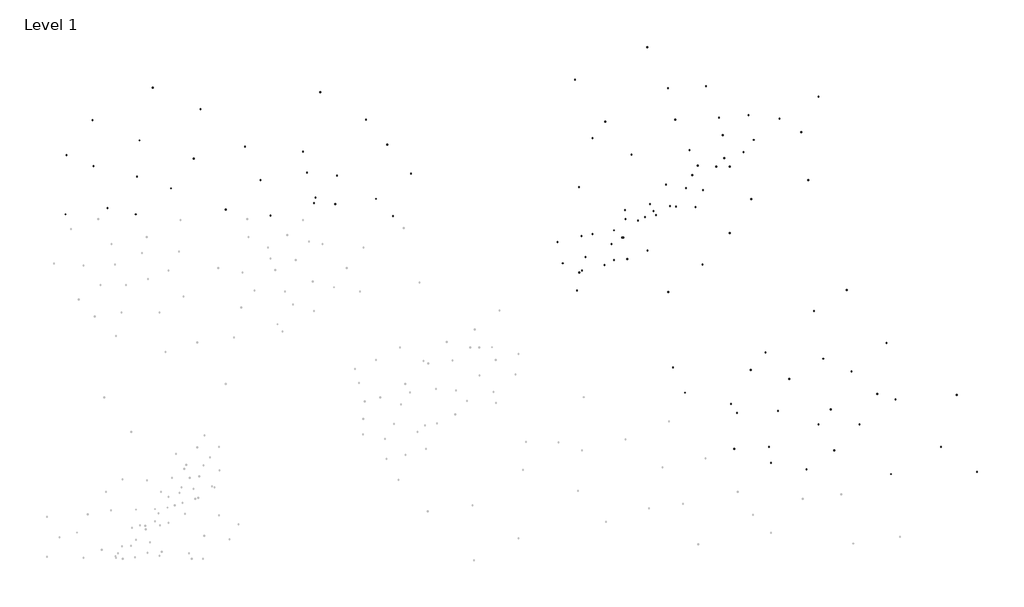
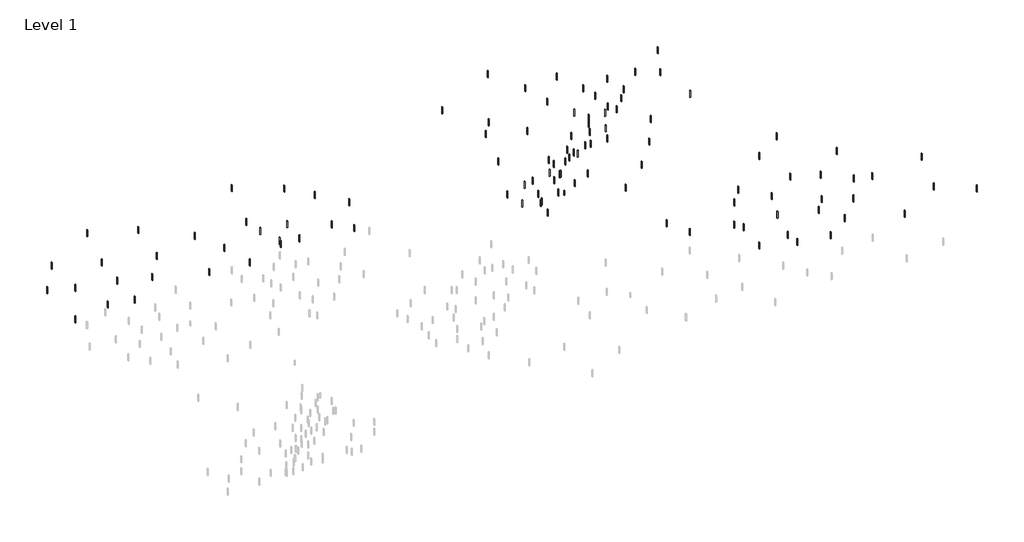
# One storey, part 3 of 3: 112 columns.
"""IFC4 building model written with IfcOpenShell, lengths in millimetres."""

from ifc_helpers import new_model, si_unit, origin, place, context, project, spatial, transform, mapped, element, save
from components import concrete_rectangular_column_12_x_18_4e544043, concrete_rectangular_column_12_x_18_d53c0298

model = new_model("IFC4")

# Units and contexts
model_context = context("Model", 3, world=origin())
ifc_project = project(units=[si_unit("LENGTHUNIT", "METRE", prefix="MILLI")], contexts=[model_context])

# Site, building, storey
site = spatial("IfcSite", under=ifc_project)
building = spatial("IfcBuilding", under=site)
storey = spatial("IfcBuildingStorey", under=building, Name="Level 1", Elevation=0.0)

# Columns
placement = place(None, origin())
concrete_rectangular_column_12_x_18_shape = concrete_rectangular_column_12_x_18_4e544043(model_context)
element("IfcColumn", 1, ObjectType="Concrete-Rectangular-Column : 12 x 18", at=placement, inside=storey, context=model_context, shape_type="MappedRepresentation", body=[
    mapped(concrete_rectangular_column_12_x_18_shape, transform((331236.2656156, 171995.4418633, 0.0), x_axis=(1.0, 0.0, 0.0), y_axis=(0.0, 1.0, 0.0), z_axis=(0.0, 0.0, 1.0))),
])
element("IfcColumn", 2, ObjectType="Concrete-Rectangular-Column : 12 x 18", at=placement, inside=storey, context=model_context, shape_type="MappedRepresentation", body=[
    mapped(concrete_rectangular_column_12_x_18_shape, transform((381102.6694144, 178499.7554022, 0.0), x_axis=(1.0, 0.0, 0.0), y_axis=(0.0, 1.0, 0.0), z_axis=(0.0, 0.0, 1.0))),
])
element("IfcColumn", 3, ObjectType="Concrete-Rectangular-Column : 12 x 18", at=placement, inside=storey, context=model_context, shape_type="MappedRepresentation", body=[
    mapped(concrete_rectangular_column_12_x_18_shape, transform((393027.2442358, 211021.3230971, 0.0), x_axis=(1.0, 0.0, 0.0), y_axis=(0.0, 1.0, 0.0), z_axis=(0.0, 0.0, 1.0))),
])
element("IfcColumn", 4, ObjectType="Concrete-Rectangular-Column : 12 x 18", at=placement, inside=storey, context=model_context, shape_type="MappedRepresentation", body=[
    mapped(concrete_rectangular_column_12_x_18_shape, transform((461322.5363951, 170911.3896068, 0.0), x_axis=(1.0, 0.0, 0.0), y_axis=(0.0, 1.0, 0.0), z_axis=(0.0, 0.0, 1.0))),
])
element("IfcColumn", 5, ObjectType="Concrete-Rectangular-Column : 12 x 18", at=placement, inside=storey, context=model_context, shape_type="MappedRepresentation", body=[
    mapped(concrete_rectangular_column_12_x_18_shape, transform((453734.1705996, 145978.1877074, 0.0), x_axis=(1.0, 0.0, 0.0), y_axis=(0.0, 1.0, 0.0), z_axis=(0.0, 0.0, 1.0))),
])
element("IfcColumn", 6, ObjectType="Concrete-Rectangular-Column : 12 x 18", at=placement, inside=storey, context=model_context, shape_type="MappedRepresentation", body=[
    mapped(concrete_rectangular_column_12_x_18_shape, transform((429885.0209567, 132969.5606294, 0.0), x_axis=(1.0, 0.0, 0.0), y_axis=(0.0, 1.0, 0.0), z_axis=(0.0, 0.0, 1.0))),
])
element("IfcColumn", 7, ObjectType="Concrete-Rectangular-Column : 12 x 18", at=placement, inside=storey, context=model_context, shape_type="MappedRepresentation", body=[
    mapped(concrete_rectangular_column_12_x_18_shape, transform((414708.2893657, 156818.7102723, 0.0), x_axis=(1.0, 0.0, 0.0), y_axis=(0.0, 1.0, 0.0), z_axis=(0.0, 0.0, 1.0))),
])
element("IfcColumn", 8, ObjectType="Concrete-Rectangular-Column : 12 x 18", at=placement, inside=storey, context=model_context, shape_type="MappedRepresentation", body=[
    mapped(concrete_rectangular_column_12_x_18_shape, transform((432053.1254697, 168743.2850938, 0.0), x_axis=(1.0, 0.0, 0.0), y_axis=(0.0, 1.0, 0.0), z_axis=(0.0, 0.0, 1.0))),
])
element("IfcColumn", 9, ObjectType="Concrete-Rectangular-Column : 12 x 18", at=placement, inside=storey, context=model_context, shape_type="MappedRepresentation", body=[
    mapped(concrete_rectangular_column_12_x_18_shape, transform((397363.4532618, 188256.2257107, 0.0), x_axis=(1.0, 0.0, 0.0), y_axis=(0.0, 1.0, 0.0), z_axis=(0.0, 0.0, 1.0))),
])
element("IfcColumn", 10, ObjectType="Concrete-Rectangular-Column : 12 x 18", at=placement, inside=storey, context=model_context, shape_type="MappedRepresentation", body=[
    mapped(concrete_rectangular_column_12_x_18_shape, transform((375682.4081319, 163323.0238113, 0.0), x_axis=(1.0, 0.0, 0.0), y_axis=(0.0, 1.0, 0.0), z_axis=(0.0, 0.0, 1.0))),
])
element("IfcColumn", 11, ObjectType="Concrete-Rectangular-Column : 12 x 18", at=placement, inside=storey, context=model_context, shape_type="MappedRepresentation", body=[
    mapped(concrete_rectangular_column_12_x_18_shape, transform((371346.1991059, 145978.1877074, 0.0), x_axis=(1.0, 0.0, 0.0), y_axis=(0.0, 1.0, 0.0), z_axis=(0.0, 0.0, 1.0))),
])
element("IfcColumn", 12, ObjectType="Concrete-Rectangular-Column : 12 x 18", at=placement, inside=storey, context=model_context, shape_type="MappedRepresentation", body=[
    mapped(concrete_rectangular_column_12_x_18_shape, transform((356169.467515, 162238.9715548, 0.0), x_axis=(1.0, 0.0, 0.0), y_axis=(0.0, 1.0, 0.0), z_axis=(0.0, 0.0, 1.0))),
])
element("IfcColumn", 13, ObjectType="Concrete-Rectangular-Column : 12 x 18", at=placement, inside=storey, context=model_context, shape_type="MappedRepresentation", body=[
    mapped(concrete_rectangular_column_12_x_18_shape, transform((471079.0067035, 134053.6128859, 0.0), x_axis=(1.0, 0.0, 0.0), y_axis=(0.0, 1.0, 0.0), z_axis=(0.0, 0.0, 1.0))),
])
element("IfcColumn", 14, ObjectType="Concrete-Rectangular-Column : 12 x 18", at=placement, inside=storey, context=model_context, shape_type="MappedRepresentation", body=[
    mapped(concrete_rectangular_column_12_x_18_shape, transform((427716.9164437, 195844.5915062, 0.0), x_axis=(1.0, 0.0, 0.0), y_axis=(0.0, 1.0, 0.0), z_axis=(0.0, 0.0, 1.0))),
])
element("IfcColumn", 15, ObjectType="Concrete-Rectangular-Column : 12 x 18", at=placement, inside=storey, context=model_context, shape_type="MappedRepresentation", body=[
    mapped(concrete_rectangular_column_12_x_18_shape, transform((362673.781054, 182835.9644282, 0.0), x_axis=(1.0, 0.0, 0.0), y_axis=(0.0, 1.0, 0.0), z_axis=(0.0, 0.0, 1.0))),
])
element("IfcColumn", 16, ObjectType="Concrete-Rectangular-Column : 12 x 18", at=placement, inside=storey, context=model_context, shape_type="MappedRepresentation", body=[
    mapped(concrete_rectangular_column_12_x_18_shape, transform((372430.2513624, 138389.8219119, 0.0), x_axis=(1.0, 0.0, 0.0), y_axis=(0.0, 1.0, 0.0), z_axis=(0.0, 0.0, 1.0))),
])
element("IfcColumn", 17, ObjectType="Concrete-Rectangular-Column : 12 x 18", at=placement, inside=storey, context=model_context, shape_type="MappedRepresentation", body=[
    mapped(concrete_rectangular_column_12_x_18_shape, transform((395195.3487488, 156818.7102723, 0.0), x_axis=(1.0, 0.0, 0.0), y_axis=(0.0, 1.0, 0.0), z_axis=(0.0, 0.0, 1.0))),
])
element("IfcColumn", 18, ObjectType="Concrete-Rectangular-Column : 12 x 18", at=placement, inside=storey, context=model_context, shape_type="MappedRepresentation", body=[
    mapped(concrete_rectangular_column_12_x_18_shape, transform((325400.2702927, 184052.0542495, 0.0), x_axis=(1.0, 0.0, 0.0), y_axis=(0.0, 1.0, 0.0), z_axis=(0.0, 0.0, 1.0))),
])
element("IfcColumn", 19, ObjectType="Concrete-Rectangular-Column : 12 x 18", at=placement, inside=storey, context=model_context, shape_type="MappedRepresentation", body=[
    mapped(concrete_rectangular_column_12_x_18_shape, transform((35133.3520887, 285803.9430025, 0.0), x_axis=(1.0, 0.0, 0.0), y_axis=(0.0, 1.0, 0.0), z_axis=(0.0, 0.0, 1.0))),
])
element("IfcColumn", 20, ObjectType="Concrete-Rectangular-Column : 12 x 18", at=placement, inside=storey, context=model_context, shape_type="MappedRepresentation", body=[
    mapped(concrete_rectangular_column_12_x_18_shape, transform((68220.2581855, 257443.7161566, 0.0), x_axis=(1.0, 0.0, 0.0), y_axis=(0.0, 1.0, 0.0), z_axis=(0.0, 0.0, 1.0))),
])
element("IfcColumn", 21, ObjectType="Concrete-Rectangular-Column : 12 x 18", at=placement, inside=storey, context=model_context, shape_type="MappedRepresentation", body=[
    mapped(concrete_rectangular_column_12_x_18_shape, transform((69961.6742959, 292893.999714, 0.0), x_axis=(1.0, 0.0, 0.0), y_axis=(0.0, 1.0, 0.0), z_axis=(0.0, 0.0, 1.0))),
])
element("IfcColumn", 22, ObjectType="Concrete-Rectangular-Column : 12 x 18", at=placement, inside=storey, context=model_context, shape_type="MappedRepresentation", body=[
    mapped(concrete_rectangular_column_12_x_18_shape, transform((34552.8800519, 257443.7161566, 0.0), x_axis=(1.0, 0.0, 0.0), y_axis=(0.0, 1.0, 0.0), z_axis=(0.0, 0.0, 1.0))),
])
element("IfcColumn", 23, ObjectType="Concrete-Rectangular-Column : 12 x 18", at=placement, inside=storey, context=model_context, shape_type="MappedRepresentation", body=[
    mapped(concrete_rectangular_column_12_x_18_shape, transform((132652.6542689, 256898.3271788, 0.0), x_axis=(1.0, 0.0, 0.0), y_axis=(0.0, 1.0, 0.0), z_axis=(0.0, 0.0, 1.0))),
])
element("IfcColumn", 24, ObjectType="Concrete-Rectangular-Column : 12 x 18", at=placement, inside=storey, context=model_context, shape_type="MappedRepresentation", body=[
    mapped(concrete_rectangular_column_12_x_18_shape, transform((164578.6162922, 275986.941402, 0.0), x_axis=(1.0, 0.0, 0.0), y_axis=(0.0, 1.0, 0.0), z_axis=(0.0, 0.0, 1.0))),
])
element("IfcColumn", 25, ObjectType="Concrete-Rectangular-Column : 12 x 18", at=placement, inside=storey, context=model_context, shape_type="MappedRepresentation", body=[
    mapped(concrete_rectangular_column_12_x_18_shape, transform((128008.8779746, 273805.3854908, 0.0), x_axis=(1.0, 0.0, 0.0), y_axis=(0.0, 1.0, 0.0), z_axis=(0.0, 0.0, 1.0))),
])
element("IfcColumn", 26, ObjectType="Concrete-Rectangular-Column : 12 x 18", at=placement, inside=storey, context=model_context, shape_type="MappedRepresentation", body=[
    mapped(concrete_rectangular_column_12_x_18_shape, transform((148325.3992622, 287440.1099359, 0.0), x_axis=(1.0, 0.0, 0.0), y_axis=(0.0, 1.0, 0.0), z_axis=(0.0, 0.0, 1.0))),
])
element("IfcColumn", 27, ObjectType="Concrete-Rectangular-Column : 12 x 18", at=placement, inside=storey, context=model_context, shape_type="MappedRepresentation", body=[
    mapped(concrete_rectangular_column_12_x_18_shape, transform((153549.6475933, 262897.6059346, 0.0), x_axis=(1.0, 0.0, 0.0), y_axis=(0.0, 1.0, 0.0), z_axis=(0.0, 0.0, 1.0))),
])
element("IfcColumn", 28, ObjectType="Concrete-Rectangular-Column : 12 x 18", at=placement, inside=storey, context=model_context, shape_type="MappedRepresentation", body=[
    mapped(concrete_rectangular_column_12_x_18_shape, transform((163726.0692405, 262351.3973544, 0.0), x_axis=(1.0, 0.0, 0.0), y_axis=(0.0, 1.0, 0.0), z_axis=(0.0, 0.0, 1.0))),
])
element("IfcColumn", 29, ObjectType="Concrete-Rectangular-Column : 12 x 18", at=placement, inside=storey, context=model_context, shape_type="MappedRepresentation", body=[
    mapped(concrete_rectangular_column_12_x_18_shape, transform((154300.0967984, 265514.3536267, 0.0), x_axis=(1.0, 0.0, 0.0), y_axis=(0.0, 1.0, 0.0), z_axis=(0.0, 0.0, 1.0))),
])
element("IfcColumn", 30, ObjectType="Concrete-Rectangular-Column : 12 x 18", at=placement, inside=storey, context=model_context, shape_type="MappedRepresentation", body=[
    mapped(concrete_rectangular_column_12_x_18_shape, transform((150260.3943232, 277533.5874615, 0.0), x_axis=(1.0, 0.0, 0.0), y_axis=(0.0, 1.0, 0.0), z_axis=(0.0, 0.0, 1.0))),
])
element("IfcColumn", 31, ObjectType="Concrete-Rectangular-Column : 12 x 18", at=placement, inside=storey, context=model_context, shape_type="MappedRepresentation", body=[
    mapped(concrete_rectangular_column_12_x_18_shape, transform((178538.3116495, 302837.23764, 0.0), x_axis=(1.0, 0.0, 0.0), y_axis=(0.0, 1.0, 0.0), z_axis=(0.0, 0.0, 1.0))),
])
element("IfcColumn", 32, ObjectType="Concrete-Rectangular-Column : 12 x 18", at=placement, inside=storey, context=model_context, shape_type="MappedRepresentation", body=[
    mapped(concrete_rectangular_column_12_x_18_shape, transform((323088.3128112, 318012.5616179, 0.0), x_axis=(1.0, 0.0, 0.0), y_axis=(0.0, 1.0, 0.0), z_axis=(0.0, 0.0, 1.0))),
])
element("IfcColumn", 33, ObjectType="Concrete-Rectangular-Column : 12 x 18", at=placement, inside=storey, context=model_context, shape_type="MappedRepresentation", body=[
    mapped(concrete_rectangular_column_12_x_18_shape, transform((200083.3915172, 276900.996207, 0.0), x_axis=(1.0, 0.0, 0.0), y_axis=(0.0, 1.0, 0.0), z_axis=(0.0, 0.0, 1.0))),
])
element("IfcColumn", 34, ObjectType="Concrete-Rectangular-Column : 12 x 18", at=placement, inside=storey, context=model_context, shape_type="MappedRepresentation", body=[
    mapped(concrete_rectangular_column_12_x_18_shape, transform((191330.702821, 256658.0760642, 0.0), x_axis=(1.0, 0.0, 0.0), y_axis=(0.0, 1.0, 0.0), z_axis=(0.0, 0.0, 1.0))),
])
element("IfcColumn", 35, ObjectType="Concrete-Rectangular-Column : 12 x 18", at=placement, inside=storey, context=model_context, shape_type="MappedRepresentation", body=[
    mapped(concrete_rectangular_column_12_x_18_shape, transform((183251.2978706, 264881.7623722, 0.0), x_axis=(1.0, 0.0, 0.0), y_axis=(0.0, 1.0, 0.0), z_axis=(0.0, 0.0, 1.0))),
])
element("IfcColumn", 36, ObjectType="Concrete-Rectangular-Column : 12 x 18", at=placement, inside=storey, context=model_context, shape_type="MappedRepresentation", body=[
    mapped(concrete_rectangular_column_12_x_18_shape, transform((188637.5678375, 290818.0038052, 0.0), x_axis=(1.0, 0.0, 0.0), y_axis=(0.0, 1.0, 0.0), z_axis=(0.0, 0.0, 1.0))),
])
element("IfcColumn", 37, ObjectType="Concrete-Rectangular-Column : 12 x 18", at=placement, inside=storey, context=model_context, shape_type="MappedRepresentation", body=[
    mapped(concrete_rectangular_column_12_x_18_shape, transform((293022.5069207, 301897.699731, 0.0), x_axis=(1.0, 0.0, 0.0), y_axis=(0.0, 1.0, 0.0), z_axis=(0.0, 0.0, 1.0))),
])
element("IfcColumn", 38, ObjectType="Concrete-Rectangular-Column : 12 x 18", at=placement, inside=storey, context=model_context, shape_type="MappedRepresentation", body=[
    mapped(concrete_rectangular_column_12_x_18_shape, transform((68793.0610734, 275635.8136981, 0.0), x_axis=(1.0, 0.0, 0.0), y_axis=(0.0, 1.0, 0.0), z_axis=(0.0, 0.0, 1.0))),
])
element("IfcColumn", 39, ObjectType="Concrete-Rectangular-Column : 12 x 18", at=placement, inside=storey, context=model_context, shape_type="MappedRepresentation", body=[
    mapped(concrete_rectangular_column_12_x_18_shape, transform((54654.1024102, 260453.623591, 0.0), x_axis=(1.0, 0.0, 0.0), y_axis=(0.0, 1.0, 0.0), z_axis=(0.0, 0.0, 1.0))),
])
element("IfcColumn", 40, ObjectType="Concrete-Rectangular-Column : 12 x 18", at=placement, inside=storey, context=model_context, shape_type="MappedRepresentation", body=[
    mapped(concrete_rectangular_column_12_x_18_shape, transform((316094.4445972, 258958.9489747, 0.0), x_axis=(1.0, 0.0, 0.0), y_axis=(0.0, 1.0, 0.0), z_axis=(0.0, 0.0, 1.0))),
])
element("IfcColumn", 41, ObjectType="Concrete-Rectangular-Column : 12 x 18", at=placement, inside=storey, context=model_context, shape_type="MappedRepresentation", body=[
    mapped(concrete_rectangular_column_12_x_18_shape, transform((305606.372775, 286031.9169447, 0.0), x_axis=(1.0, 0.0, 0.0), y_axis=(0.0, 1.0, 0.0), z_axis=(0.0, 0.0, 1.0))),
])
element("IfcColumn", 42, ObjectType="Concrete-Rectangular-Column : 12 x 18", at=placement, inside=storey, context=model_context, shape_type="MappedRepresentation", body=[
    mapped(concrete_rectangular_column_12_x_18_shape, transform((280435.0004016, 270561.6495333, 0.0), x_axis=(1.0, 0.0, 0.0), y_axis=(0.0, 1.0, 0.0), z_axis=(0.0, 0.0, 1.0))),
])
element("IfcColumn", 43, ObjectType="Concrete-Rectangular-Column : 12 x 18", at=placement, inside=storey, context=model_context, shape_type="MappedRepresentation", body=[
    mapped(concrete_rectangular_column_12_x_18_shape, transform((390210.1521411, 273784.6219106, 0.0), x_axis=(1.0, 0.0, 0.0), y_axis=(0.0, 1.0, 0.0), z_axis=(0.0, 0.0, 1.0))),
])
element("IfcColumn", 44, ObjectType="Concrete-Rectangular-Column : 12 x 18", at=placement, inside=storey, context=model_context, shape_type="MappedRepresentation", body=[
    mapped(concrete_rectangular_column_12_x_18_shape, transform((395104.5856581, 313749.4793902, 0.0), x_axis=(1.0, 0.0, 0.0), y_axis=(0.0, 1.0, 0.0), z_axis=(0.0, 0.0, 1.0))),
])
element("IfcColumn", 45, ObjectType="Concrete-Rectangular-Column : 12 x 18", at=placement, inside=storey, context=model_context, shape_type="MappedRepresentation", body=[
    mapped(concrete_rectangular_column_12_x_18_shape, transform((362941.1654032, 264760.299254, 0.0), x_axis=(1.0, 0.0, 0.0), y_axis=(0.0, 1.0, 0.0), z_axis=(0.0, 0.0, 1.0))),
])
element("IfcColumn", 46, ObjectType="Concrete-Rectangular-Column : 12 x 18", at=placement, inside=storey, context=model_context, shape_type="MappedRepresentation", body=[
    mapped(concrete_rectangular_column_12_x_18_shape, transform((369659.3234416, 191256.0739077, 0.0), x_axis=(1.0, 0.0, 0.0), y_axis=(0.0, 1.0, 0.0), z_axis=(0.0, 0.0, 1.0))),
])
element("IfcColumn", 47, ObjectType="Concrete-Rectangular-Column : 12 x 18", at=placement, inside=storey, context=model_context, shape_type="MappedRepresentation", body=[
    mapped(concrete_rectangular_column_12_x_18_shape, transform((401008.1059618, 164032.1311928, 0.0), x_axis=(1.0, 0.0, 0.0), y_axis=(0.0, 1.0, 0.0), z_axis=(0.0, 0.0, 1.0))),
])
element("IfcColumn", 48, ObjectType="Concrete-Rectangular-Column : 12 x 18", at=placement, inside=storey, context=model_context, shape_type="MappedRepresentation", body=[
    mapped(concrete_rectangular_column_12_x_18_shape, transform((353159.9642205, 166507.035076, 0.0), x_axis=(1.0, 0.0, 0.0), y_axis=(0.0, 1.0, 0.0), z_axis=(0.0, 0.0, 1.0))),
])
element("IfcColumn", 49, ObjectType="Concrete-Rectangular-Column : 12 x 18", at=placement, inside=storey, context=model_context, shape_type="MappedRepresentation", body=[
    mapped(concrete_rectangular_column_12_x_18_shape, transform((354809.9001426, 145057.8680885, 0.0), x_axis=(1.0, 0.0, 0.0), y_axis=(0.0, 1.0, 0.0), z_axis=(0.0, 0.0, 1.0))),
])
element("IfcColumn", 50, ObjectType="Concrete-Rectangular-Column : 12 x 18", at=placement, inside=storey, context=model_context, shape_type="MappedRepresentation", body=[
    mapped(concrete_rectangular_column_12_x_18_shape, transform((402658.0418839, 144232.9001274, 0.0), x_axis=(1.0, 0.0, 0.0), y_axis=(0.0, 1.0, 0.0), z_axis=(0.0, 0.0, 1.0))),
])
element("IfcColumn", 51, ObjectType="Concrete-Rectangular-Column : 12 x 18", at=placement, inside=storey, context=model_context, shape_type="MappedRepresentation", body=[
    mapped(concrete_rectangular_column_12_x_18_shape, transform((389458.554507, 135158.2525558, 0.0), x_axis=(1.0, 0.0, 0.0), y_axis=(0.0, 1.0, 0.0), z_axis=(0.0, 0.0, 1.0))),
])
element("IfcColumn", 52, ObjectType="Concrete-Rectangular-Column : 12 x 18", at=placement, inside=storey, context=model_context, shape_type="MappedRepresentation", body=[
    mapped(concrete_rectangular_column_12_x_18_shape, transform((423282.2409104, 171456.8428423, 0.0), x_axis=(1.0, 0.0, 0.0), y_axis=(0.0, 1.0, 0.0), z_axis=(0.0, 0.0, 1.0))),
])
element("IfcColumn", 53, ObjectType="Concrete-Rectangular-Column : 12 x 18", at=placement, inside=storey, context=model_context, shape_type="MappedRepresentation", body=[
    mapped(concrete_rectangular_column_12_x_18_shape, transform((410907.7214945, 182181.4263361, 0.0), x_axis=(1.0, 0.0, 0.0), y_axis=(0.0, 1.0, 0.0), z_axis=(0.0, 0.0, 1.0))),
])
element("IfcColumn", 54, ObjectType="Concrete-Rectangular-Column : 12 x 18", at=placement, inside=storey, context=model_context, shape_type="MappedRepresentation", body=[
    mapped(concrete_rectangular_column_12_x_18_shape, transform((281833.4099779, 230596.7920537, 0.0), x_axis=(1.0, 0.0, 0.0), y_axis=(0.0, 1.0, 0.0), z_axis=(0.0, 0.0, 1.0))),
])
element("IfcColumn", 55, ObjectType="Concrete-Rectangular-Column : 12 x 18", at=placement, inside=storey, context=model_context, shape_type="MappedRepresentation", body=[
    mapped(concrete_rectangular_column_12_x_18_shape, transform((302761.1763556, 255238.1331991, 0.0), x_axis=(1.0, 0.0, 0.0), y_axis=(0.0, 1.0, 0.0), z_axis=(0.0, 0.0, 1.0))),
])
element("IfcColumn", 56, ObjectType="Concrete-Rectangular-Column : 12 x 18", at=placement, inside=storey, context=model_context, shape_type="MappedRepresentation", body=[
    mapped(concrete_rectangular_column_12_x_18_shape, transform((323149.9879781, 220255.9910149, 0.0), x_axis=(1.0, 0.0, 0.0), y_axis=(0.0, 1.0, 0.0), z_axis=(0.0, 0.0, 1.0))),
])
element("IfcColumn", 57, ObjectType="Concrete-Rectangular-Column : 12 x 18", at=placement, inside=storey, context=model_context, shape_type="MappedRepresentation", body=[
    mapped(concrete_rectangular_column_12_x_18_shape, transform((286903.2117604, 293875.1260591, 0.0), x_axis=(1.0, 0.0, 0.0), y_axis=(0.0, 1.0, 0.0), z_axis=(0.0, 0.0, 1.0))),
])
element("IfcColumn", 58, ObjectType="Concrete-Rectangular-Column : 12 x 18", at=placement, inside=storey, context=model_context, shape_type="MappedRepresentation", body=[
    mapped(concrete_rectangular_column_12_x_18_shape, transform((347503.2907493, 303795.4350367, 0.0), x_axis=(1.0, 0.0, 0.0), y_axis=(0.0, 1.0, 0.0), z_axis=(0.0, 0.0, 1.0))),
])
element("IfcColumn", 59, ObjectType="Concrete-Rectangular-Column : 12 x 18", at=placement, inside=storey, context=model_context, shape_type="MappedRepresentation", body=[
    mapped(concrete_rectangular_column_12_x_18_shape, transform((337308.8849381, 280822.0879307, 0.0), x_axis=(1.0, 0.0, 0.0), y_axis=(0.0, 1.0, 0.0), z_axis=(0.0, 0.0, 1.0))),
])
element("IfcColumn", 60, ObjectType="Concrete-Rectangular-Column : 12 x 18", at=placement, inside=storey, context=model_context, shape_type="MappedRepresentation", body=[
    mapped(concrete_rectangular_column_12_x_18_shape, transform((326548.1232485, 302751.1919865, 0.0), x_axis=(1.0, 0.0, 0.0), y_axis=(0.0, 1.0, 0.0), z_axis=(0.0, 0.0, 1.0))),
])
element("IfcColumn", 61, ObjectType="Concrete-Rectangular-Column : 12 x 18", at=placement, inside=storey, context=model_context, shape_type="MappedRepresentation", body=[
    mapped(concrete_rectangular_column_12_x_18_shape, transform((341273.3760869, 318936.9592657, 0.0), x_axis=(1.0, 0.0, 0.0), y_axis=(0.0, 1.0, 0.0), z_axis=(0.0, 0.0, 1.0))),
])
element("IfcColumn", 62, ObjectType="Concrete-Rectangular-Column : 12 x 18", at=placement, inside=storey, context=model_context, shape_type="MappedRepresentation", body=[
    mapped(concrete_rectangular_column_12_x_18_shape, transform((313146.1877921, 337645.4036888, 0.0), x_axis=(1.0, 0.0, 0.0), y_axis=(0.0, 1.0, 0.0), z_axis=(0.0, 0.0, 1.0))),
])
element("IfcColumn", 63, ObjectType="Concrete-Rectangular-Column : 12 x 18", at=placement, inside=storey, context=model_context, shape_type="MappedRepresentation", body=[
    mapped(concrete_rectangular_column_12_x_18_shape, transform((278598.4792096, 321981.7579347, 0.0), x_axis=(1.0, 0.0, 0.0), y_axis=(0.0, 1.0, 0.0), z_axis=(0.0, 0.0, 1.0))),
])
element("IfcColumn", 64, ObjectType="Concrete-Rectangular-Column : 12 x 18", at=placement, inside=storey, context=model_context, shape_type="MappedRepresentation", body=[
    mapped(concrete_rectangular_column_12_x_18_shape, transform((156542.677718, 316012.6358556, 0.0), x_axis=(1.0, 0.0, 0.0), y_axis=(0.0, 1.0, 0.0), z_axis=(0.0, 0.0, 1.0))),
])
element("IfcColumn", 65, ObjectType="Concrete-Rectangular-Column : 12 x 18", at=placement, inside=storey, context=model_context, shape_type="MappedRepresentation", body=[
    mapped(concrete_rectangular_column_12_x_18_shape, transform((96007.7361272, 284243.9030565, 0.0), x_axis=(1.0, 0.0, 0.0), y_axis=(0.0, 1.0, 0.0), z_axis=(0.0, 0.0, 1.0))),
])
element("IfcColumn", 66, ObjectType="Concrete-Rectangular-Column : 12 x 18", at=placement, inside=storey, context=model_context, shape_type="MappedRepresentation", body=[
    mapped(concrete_rectangular_column_12_x_18_shape, transform((111277.8114835, 259648.755083, 0.0), x_axis=(1.0, 0.0, 0.0), y_axis=(0.0, 1.0, 0.0), z_axis=(0.0, 0.0, 1.0))),
])
element("IfcColumn", 67, ObjectType="Concrete-Rectangular-Column : 12 x 18", at=placement, inside=storey, context=model_context, shape_type="MappedRepresentation", body=[
    mapped(concrete_rectangular_column_12_x_18_shape, transform((120548.9286641, 289880.2911337, 0.0), x_axis=(1.0, 0.0, 0.0), y_axis=(0.0, 1.0, 0.0), z_axis=(0.0, 0.0, 1.0))),
])
element("IfcColumn", 68, ObjectType="Concrete-Rectangular-Column : 12 x 18", at=placement, inside=storey, context=model_context, shape_type="MappedRepresentation", body=[
    mapped(concrete_rectangular_column_12_x_18_shape, transform((99279.8951322, 307814.2531977, 0.0), x_axis=(1.0, 0.0, 0.0), y_axis=(0.0, 1.0, 0.0), z_axis=(0.0, 0.0, 1.0))),
])
element("IfcColumn", 69, ObjectType="Concrete-Rectangular-Column : 12 x 18", at=placement, inside=storey, context=model_context, shape_type="MappedRepresentation", body=[
    mapped(concrete_rectangular_column_12_x_18_shape, transform((85100.5394442, 269896.7334053, 0.0), x_axis=(1.0, 0.0, 0.0), y_axis=(0.0, 1.0, 0.0), z_axis=(0.0, 0.0, 1.0))),
])
element("IfcColumn", 70, ObjectType="Concrete-Rectangular-Column : 12 x 18", at=placement, inside=storey, context=model_context, shape_type="MappedRepresentation", body=[
    mapped(concrete_rectangular_column_12_x_18_shape, transform((76374.7820978, 318062.23152, 0.0), x_axis=(1.0, 0.0, 0.0), y_axis=(0.0, 1.0, 0.0), z_axis=(0.0, 0.0, 1.0))),
])
element("IfcColumn", 71, ObjectType="Concrete-Rectangular-Column : 12 x 18", at=placement, inside=storey, context=model_context, shape_type="MappedRepresentation", body=[
    mapped(concrete_rectangular_column_12_x_18_shape, transform((47470.7108878, 302690.2640366, 0.0), x_axis=(1.0, 0.0, 0.0), y_axis=(0.0, 1.0, 0.0), z_axis=(0.0, 0.0, 1.0))),
])
element("IfcColumn", 72, ObjectType="Concrete-Rectangular-Column : 12 x 18", at=placement, inside=storey, context=model_context, shape_type="MappedRepresentation", body=[
    mapped(concrete_rectangular_column_12_x_18_shape, transform((48016.0707219, 280657.1106437, 0.0), x_axis=(1.0, 0.0, 0.0), y_axis=(0.0, 1.0, 0.0), z_axis=(0.0, 0.0, 1.0))),
])
element("IfcColumn", 73, ObjectType="Concrete-Rectangular-Column : 12 x 18", at=placement, inside=storey, context=model_context, shape_type="MappedRepresentation", body=[
    mapped(concrete_rectangular_column_12_x_18_shape, transform((339574.3084517, 233309.0291433, 0.0), x_axis=(1.0, 0.0, 0.0), y_axis=(0.0, 1.0, 0.0), z_axis=(0.0, 0.0, 1.0))),
])
element("IfcColumn", 74, ObjectType="Concrete-Rectangular-Column : 12 x 18", at=placement, inside=storey, context=model_context, shape_type="MappedRepresentation", body=[
    mapped(concrete_rectangular_column_12_x_18_shape, transform((336176.1731813, 260981.4699756, 0.0), x_axis=(1.0, 0.0, 0.0), y_axis=(0.0, 1.0, 0.0), z_axis=(0.0, 0.0, 1.0))),
])
element("IfcColumn", 75, ObjectType="Concrete-Rectangular-Column : 12 x 18", at=placement, inside=storey, context=model_context, shape_type="MappedRepresentation", body=[
    mapped(concrete_rectangular_column_12_x_18_shape, transform((352600.4936549, 248450.5533723, 0.0), x_axis=(1.0, 0.0, 0.0), y_axis=(0.0, 1.0, 0.0), z_axis=(0.0, 0.0, 1.0))),
])
element("IfcColumn", 76, ObjectType="Concrete-Rectangular-Column : 12 x 18", at=placement, inside=storey, context=model_context, shape_type="MappedRepresentation", body=[
    mapped(concrete_rectangular_column_12_x_18_shape, transform((408669.7256166, 221288.6189328, 0.0), x_axis=(1.0, 0.0, 0.0), y_axis=(0.0, 1.0, 0.0), z_axis=(0.0, 0.0, 1.0))),
])
element("IfcColumn", 77, ObjectType="Concrete-Rectangular-Column : 12 x 18", at=placement, inside=storey, context=model_context, shape_type="MappedRepresentation", body=[
    mapped(concrete_rectangular_column_12_x_18_shape, transform((279481.8547028, 220907.8469684, 0.0), x_axis=(1.0, 0.0, 0.0), y_axis=(0.0, 1.0, 0.0), z_axis=(0.0, 0.0, 1.0))),
])
element("IfcColumn", 78, ObjectType="Concrete-Rectangular-Column : 12 x 18", at=placement, inside=storey, context=model_context, shape_type="MappedRepresentation", body=[
    mapped(concrete_rectangular_column_12_x_18_shape, transform((280578.6063878, 229647.5317825, 0.0), x_axis=(1.0, 0.0, 0.0), y_axis=(0.0, 1.0, 0.0), z_axis=(0.0, 0.0, 1.0))),
])
element("IfcColumn", 79, ObjectType="Concrete-Rectangular-Column : 12 x 18", at=placement, inside=storey, context=model_context, shape_type="MappedRepresentation", body=[
    mapped(concrete_rectangular_column_12_x_18_shape, transform((333276.7346966, 288296.7845061, 0.0), x_axis=(1.0, 0.0, 0.0), y_axis=(0.0, 1.0, 0.0), z_axis=(0.0, 0.0, 1.0))),
])
element("IfcColumn", 80, ObjectType="Concrete-Rectangular-Column : 12 x 18", at=placement, inside=storey, context=model_context, shape_type="MappedRepresentation", body=[
    mapped(concrete_rectangular_column_12_x_18_shape, transform((350008.2682337, 284494.0846827, 0.0), x_axis=(1.0, 0.0, 0.0), y_axis=(0.0, 1.0, 0.0), z_axis=(0.0, 0.0, 1.0))),
])
element("IfcColumn", 81, ObjectType="Concrete-Rectangular-Column : 12 x 18", at=placement, inside=storey, context=model_context, shape_type="MappedRepresentation", body=[
    mapped(concrete_rectangular_column_12_x_18_shape, transform((349274.4469, 295418.778171, 0.0), x_axis=(1.0, 0.0, 0.0), y_axis=(0.0, 1.0, 0.0), z_axis=(0.0, 0.0, 1.0))),
])
element("IfcColumn", 82, ObjectType="Concrete-Rectangular-Column : 12 x 18", at=placement, inside=storey, context=model_context, shape_type="MappedRepresentation", body=[
    mapped(concrete_rectangular_column_12_x_18_shape, transform((361593.8232653, 305051.0191975, 0.0), x_axis=(1.0, 0.0, 0.0), y_axis=(0.0, 1.0, 0.0), z_axis=(0.0, 0.0, 1.0))),
])
element("IfcColumn", 83, ObjectType="Concrete-Rectangular-Column : 12 x 18", at=placement, inside=storey, context=model_context, shape_type="MappedRepresentation", body=[
    mapped(concrete_rectangular_column_12_x_18_shape, transform((386857.2478147, 296864.0708553, 0.0), x_axis=(1.0, 0.0, 0.0), y_axis=(0.0, 1.0, 0.0), z_axis=(0.0, 0.0, 1.0))),
])
element("IfcColumn", 84, ObjectType="Concrete-Rectangular-Column : 12 x 18", at=placement, inside=storey, context=model_context, shape_type="MappedRepresentation", body=[
    mapped(concrete_rectangular_column_12_x_18_shape, transform((376437.3982263, 303304.4572317, 0.0), x_axis=(1.0, 0.0, 0.0), y_axis=(0.0, 1.0, 0.0), z_axis=(0.0, 0.0, 1.0))),
])
element("IfcColumn", 85, ObjectType="Concrete-Rectangular-Column : 12 x 18", at=placement, inside=storey, context=model_context, shape_type="MappedRepresentation", body=[
    mapped(concrete_rectangular_column_12_x_18_shape, transform((359231.1539398, 287311.1437943, 0.0), x_axis=(1.0, 0.0, 0.0), y_axis=(0.0, 1.0, 0.0), z_axis=(0.0, 0.0, 1.0))),
])
element("IfcColumn", 86, ObjectType="Concrete-Rectangular-Column : 12 x 18", at=placement, inside=storey, context=model_context, shape_type="MappedRepresentation", body=[
    mapped(concrete_rectangular_column_12_x_18_shape, transform((331594.1312867, 270112.9096755, 0.0), x_axis=(1.0, 0.0, 0.0), y_axis=(0.0, 1.0, 0.0), z_axis=(0.0, 0.0, 1.0))),
])
element("IfcColumn", 87, ObjectType="Concrete-Rectangular-Column : 12 x 18", at=placement, inside=storey, context=model_context, shape_type="MappedRepresentation", body=[
    mapped(concrete_rectangular_column_12_x_18_shape, transform((326940.045764, 261062.2009233, 0.0), x_axis=(1.0, 0.0, 0.0), y_axis=(0.0, 1.0, 0.0), z_axis=(0.0, 0.0, 1.0))),
])
element("IfcColumn", 88, ObjectType="Concrete-Rectangular-Column : 12 x 18", at=placement, inside=storey, context=model_context, shape_type="MappedRepresentation", body=[
    mapped(concrete_rectangular_column_12_x_18_shape, transform((334689.2713551, 276337.8509655, 0.0), x_axis=(1.0, 0.0, 0.0), y_axis=(0.0, 1.0, 0.0), z_axis=(0.0, 0.0, 1.0))),
])
element("IfcColumn", 89, ObjectType="Concrete-Rectangular-Column : 12 x 18", at=placement, inside=storey, context=model_context, shape_type="MappedRepresentation", body=[
    mapped(concrete_rectangular_column_12_x_18_shape, transform((346168.2178451, 280399.3088586, 0.0), x_axis=(1.0, 0.0, 0.0), y_axis=(0.0, 1.0, 0.0), z_axis=(0.0, 0.0, 1.0))),
])
element("IfcColumn", 90, ObjectType="Concrete-Rectangular-Column : 12 x 18", at=placement, inside=storey, context=model_context, shape_type="MappedRepresentation", body=[
    mapped(concrete_rectangular_column_12_x_18_shape, transform((364143.367663, 293130.1685611, 0.0), x_axis=(1.0, 0.0, 0.0), y_axis=(0.0, 1.0, 0.0), z_axis=(0.0, 0.0, 1.0))),
])
element("IfcColumn", 91, ObjectType="Concrete-Rectangular-Column : 12 x 18", at=placement, inside=storey, context=model_context, shape_type="MappedRepresentation", body=[
    mapped(concrete_rectangular_column_12_x_18_shape, transform((352642.0105589, 280289.9327353, 0.0), x_axis=(1.0, 0.0, 0.0), y_axis=(0.0, 1.0, 0.0), z_axis=(0.0, 0.0, 1.0))),
])
element("IfcColumn", 92, ObjectType="Concrete-Rectangular-Column : 12 x 18", at=placement, inside=storey, context=model_context, shape_type="MappedRepresentation", body=[
    mapped(concrete_rectangular_column_12_x_18_shape, transform((339890.3842325, 269035.2597634, 0.0), x_axis=(1.0, 0.0, 0.0), y_axis=(0.0, 1.0, 0.0), z_axis=(0.0, 0.0, 1.0))),
])
element("IfcColumn", 93, ObjectType="Concrete-Rectangular-Column : 12 x 18", at=placement, inside=storey, context=model_context, shape_type="MappedRepresentation", body=[
    mapped(concrete_rectangular_column_12_x_18_shape, transform((323981.6252126, 261407.4443989, 0.0), x_axis=(1.0, 0.0, 0.0), y_axis=(0.0, 1.0, 0.0), z_axis=(0.0, 0.0, 1.0))),
])
element("IfcColumn", 94, ObjectType="Concrete-Rectangular-Column : 12 x 18", at=placement, inside=storey, context=model_context, shape_type="MappedRepresentation", body=[
    mapped(concrete_rectangular_column_12_x_18_shape, transform((308640.2362781, 254372.1542975, 0.0), x_axis=(1.0, 0.0, 0.0), y_axis=(0.0, 1.0, 0.0), z_axis=(0.0, 0.0, 1.0))),
])
element("IfcColumn", 95, ObjectType="Concrete-Rectangular-Column : 12 x 18", at=placement, inside=storey, context=model_context, shape_type="MappedRepresentation", body=[
    mapped(concrete_rectangular_column_12_x_18_shape, transform((297243.6375598, 249788.6356344, 0.0), x_axis=(1.0, 0.0, 0.0), y_axis=(0.0, 1.0, 0.0), z_axis=(0.0, 0.0, 1.0))),
])
element("IfcColumn", 96, ObjectType="Concrete-Rectangular-Column : 12 x 18", at=placement, inside=storey, context=model_context, shape_type="MappedRepresentation", body=[
    mapped(concrete_rectangular_column_12_x_18_shape, transform((281611.6234779, 247097.7455435, 0.0), x_axis=(1.0, 0.0, 0.0), y_axis=(0.0, 1.0, 0.0), z_axis=(0.0, 0.0, 1.0))),
])
element("IfcColumn", 97, ObjectType="Concrete-Rectangular-Column : 12 x 18", at=placement, inside=storey, context=model_context, shape_type="MappedRepresentation", body=[
    mapped(concrete_rectangular_column_12_x_18_shape, transform((270109.2870362, 244143.0270137, 0.0), x_axis=(1.0, 0.0, 0.0), y_axis=(0.0, 1.0, 0.0), z_axis=(0.0, 0.0, 1.0))),
])
element("IfcColumn", 98, ObjectType="Concrete-Rectangular-Column : 12 x 18", at=placement, inside=storey, context=model_context, shape_type="MappedRepresentation", body=[
    mapped(concrete_rectangular_column_12_x_18_shape, transform((292606.8754139, 233173.0258422, 0.0), x_axis=(1.0, 0.0, 0.0), y_axis=(0.0, 1.0, 0.0), z_axis=(0.0, 0.0, 1.0))),
])
element("IfcColumn", 99, ObjectType="Concrete-Rectangular-Column : 12 x 18", at=placement, inside=storey, context=model_context, shape_type="MappedRepresentation", body=[
    mapped(concrete_rectangular_column_12_x_18_shape, transform((303516.2874289, 236081.6794512, 0.0), x_axis=(1.0, 0.0, 0.0), y_axis=(0.0, 1.0, 0.0), z_axis=(0.0, 0.0, 1.0))),
])
element("IfcColumn", 100, ObjectType="Concrete-Rectangular-Column : 12 x 18", at=placement, inside=storey, context=model_context, shape_type="MappedRepresentation", body=[
    mapped(concrete_rectangular_column_12_x_18_shape, transform((301603.7338234, 246274.8255535, 0.0), x_axis=(1.0, 0.0, 0.0), y_axis=(0.0, 1.0, 0.0), z_axis=(0.0, 0.0, 1.0))),
])
element("IfcColumn", 101, ObjectType="Concrete-Rectangular-Column : 12 x 18", at=placement, inside=storey, context=model_context, shape_type="MappedRepresentation", body=[
    mapped(concrete_rectangular_column_12_x_18_shape, transform((314520.0510399, 262403.8776947, 0.0), x_axis=(1.0, 0.0, 0.0), y_axis=(0.0, 1.0, 0.0), z_axis=(0.0, 0.0, 1.0))),
])
element("IfcColumn", 102, ObjectType="Concrete-Rectangular-Column : 12 x 18", at=placement, inside=storey, context=model_context, shape_type="MappedRepresentation", body=[
    mapped(concrete_rectangular_column_12_x_18_shape, transform((317242.0296788, 257134.1627362, 0.0), x_axis=(1.0, 0.0, 0.0), y_axis=(0.0, 1.0, 0.0), z_axis=(0.0, 0.0, 1.0))),
])
element("IfcColumn", 103, ObjectType="Concrete-Rectangular-Column : 12 x 18", at=placement, inside=storey, context=model_context, shape_type="MappedRepresentation", body=[
    mapped(concrete_rectangular_column_12_x_18_shape, transform((313188.1336574, 239993.6038409, 0.0), x_axis=(1.0, 0.0, 0.0), y_axis=(0.0, 1.0, 0.0), z_axis=(0.0, 0.0, 1.0))),
])
element("IfcColumn", 104, ObjectType="Concrete-Rectangular-Column : 12 x 18", at=placement, inside=storey, context=model_context, shape_type="MappedRepresentation", body=[
    mapped(concrete_rectangular_column_12_x_18_shape, transform((283547.1599941, 236901.2538401, 0.0), x_axis=(1.0, 0.0, 0.0), y_axis=(0.0, 1.0, 0.0), z_axis=(0.0, 0.0, 1.0))),
])
element("IfcColumn", 105, ObjectType="Concrete-Rectangular-Column : 12 x 18", at=placement, inside=storey, context=model_context, shape_type="MappedRepresentation", body=[
    mapped(concrete_rectangular_column_12_x_18_shape, transform((286821.6760074, 247994.6023818, 0.0), x_axis=(1.0, 0.0, 0.0), y_axis=(0.0, 1.0, 0.0), z_axis=(0.0, 0.0, 1.0))),
])
element("IfcColumn", 106, ObjectType="Concrete-Rectangular-Column : 12 x 18", at=placement, inside=storey, context=model_context, shape_type="MappedRepresentation", body=[
    mapped(concrete_rectangular_column_12_x_18_shape, transform((302409.4155499, 259401.769736, 0.0), x_axis=(1.0, 0.0, 0.0), y_axis=(0.0, 1.0, 0.0), z_axis=(0.0, 0.0, 1.0))),
])
element("IfcColumn", 107, ObjectType="Concrete-Rectangular-Column : 12 x 18", at=placement, inside=storey, context=model_context, shape_type="MappedRepresentation", body=[
    mapped(concrete_rectangular_column_12_x_18_shape, transform((322087.2063851, 271655.9245678, 0.0), x_axis=(1.0, 0.0, 0.0), y_axis=(0.0, 1.0, 0.0), z_axis=(0.0, 0.0, 1.0))),
])
element("IfcColumn", 108, ObjectType="Concrete-Rectangular-Column : 12 x 18", at=placement, inside=storey, context=model_context, shape_type="MappedRepresentation", body=[
    mapped(concrete_rectangular_column_12_x_18_shape, transform((312026.1446738, 256236.069967, 0.0), x_axis=(1.0, 0.0, 0.0), y_axis=(0.0, 1.0, 0.0), z_axis=(0.0, 0.0, 1.0))),
])
element("IfcColumn", 109, ObjectType="Concrete-Rectangular-Column : 12 x 18", at=placement, inside=storey, context=model_context, shape_type="MappedRepresentation", body=[
    mapped(concrete_rectangular_column_12_x_18_shape, transform((301020.5033274, 246235.3478027, 0.0), x_axis=(1.0, 0.0, 0.0), y_axis=(0.0, 1.0, 0.0), z_axis=(0.0, 0.0, 1.0))),
])
element("IfcColumn", 110, ObjectType="Concrete-Rectangular-Column : 12 x 18", at=placement, inside=storey, context=model_context, shape_type="MappedRepresentation", body=[
    mapped(concrete_rectangular_column_12_x_18_shape, transform((295970.0088919, 243174.7580636, 0.0), x_axis=(1.0, 0.0, 0.0), y_axis=(0.0, 1.0, 0.0), z_axis=(0.0, 0.0, 1.0))),
])
element("IfcColumn", 111, ObjectType="Concrete-Rectangular-Column : 12 x 18", at=placement, inside=storey, context=model_context, shape_type="MappedRepresentation", body=[
    mapped(concrete_rectangular_column_12_x_18_shape, transform((272639.8968212, 233991.7159457, 0.0), x_axis=(1.0, 0.0, 0.0), y_axis=(0.0, 1.0, 0.0), z_axis=(0.0, 0.0, 1.0))),
])
concrete_rectangular_column_12_x_18_2_shape = concrete_rectangular_column_12_x_18_d53c0298(model_context)
element("IfcColumn", 112, ObjectType="Concrete-Rectangular-Column : 12 x 18", at=placement, inside=storey, context=model_context, shape_type="MappedRepresentation", body=[
    mapped(concrete_rectangular_column_12_x_18_2_shape, transform((297243.6375598, 235628.1570443, 0.0), x_axis=(1.0, 0.0, 0.0), y_axis=(0.0, 1.0, 0.0), z_axis=(0.0, 0.0, 1.0))),
])

save(model, "model.ifc")
